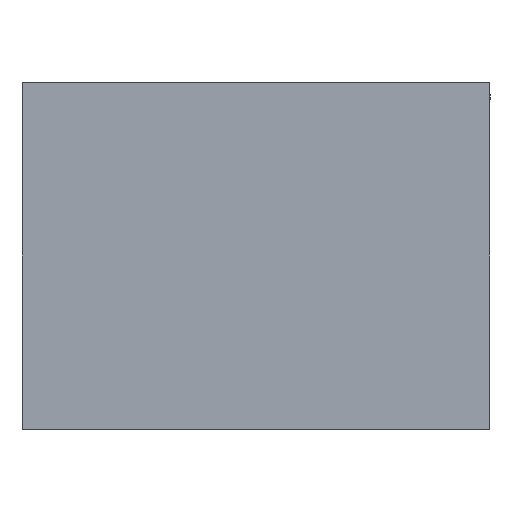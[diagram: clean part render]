
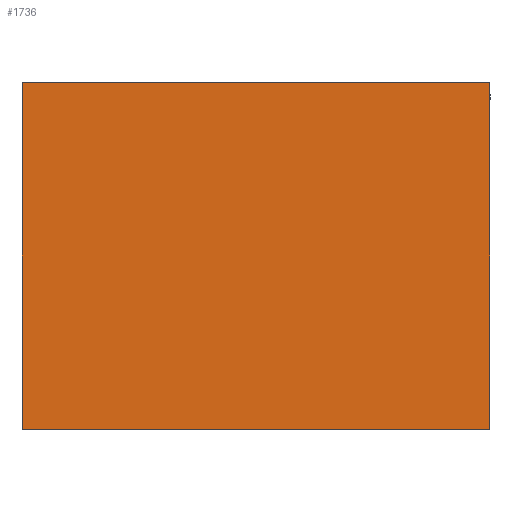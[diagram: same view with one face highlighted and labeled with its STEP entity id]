
A CAD part, front view. The second image highlights one B-rep face of the part: STEP entity #1736.
In plain terms, the highlighted planar face has unit normal (0, -1, 0).
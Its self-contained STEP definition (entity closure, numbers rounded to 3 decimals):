
#10 = VERTEX_POINT ( 'NONE', #1629 ) ;
#130 = EDGE_CURVE ( 'NONE', #1143, #1706, #1220, .T. ) ;
#221 = EDGE_CURVE ( 'NONE', #10, #1143, #484, .T. ) ;
#337 = LINE ( 'NONE', #1583, #1283 ) ;
#445 = DIRECTION ( 'NONE',  ( 0., 1., 0. ) ) ;
#484 = LINE ( 'NONE', #1347, #1501 ) ;
#554 = CARTESIAN_POINT ( 'NONE',  ( -42.5, 0., 31.5 ) ) ;
#639 = EDGE_CURVE ( 'NONE', #862, #10, #337, .T. ) ;
#648 = ORIENTED_EDGE ( 'NONE', *, *, #639, .F. ) ;
#803 = ORIENTED_EDGE ( 'NONE', *, *, #221, .F. ) ;
#846 = CARTESIAN_POINT ( 'NONE',  ( 0., 0., 0. ) ) ;
#862 = VERTEX_POINT ( 'NONE', #554 ) ;
#893 = AXIS2_PLACEMENT_3D ( 'NONE', #846, #445, #1812 ) ;
#965 = LINE ( 'NONE', #1737, #1901 ) ;
#1012 = EDGE_LOOP ( 'NONE', ( #803, #648, #1515, #1423 ) ) ;
#1143 = VERTEX_POINT ( 'NONE', #2304 ) ;
#1220 = LINE ( 'NONE', #1320, #1286 ) ;
#1257 = PLANE ( 'NONE',  #893 ) ;
#1283 = VECTOR ( 'NONE', #2169, 1000. ) ;
#1286 = VECTOR ( 'NONE', #1400, 1000. ) ;
#1320 = CARTESIAN_POINT ( 'NONE',  ( -42.5, 0., -31.5 ) ) ;
#1347 = CARTESIAN_POINT ( 'NONE',  ( 42.5, 0., -31.5 ) ) ;
#1380 = FACE_OUTER_BOUND ( 'NONE', #1012, .T. ) ;
#1400 = DIRECTION ( 'NONE',  ( -1., 0., 0. ) ) ;
#1423 = ORIENTED_EDGE ( 'NONE', *, *, #130, .F. ) ;
#1447 = EDGE_CURVE ( 'NONE', #1706, #862, #965, .T. ) ;
#1501 = VECTOR ( 'NONE', #1863, 1000. ) ;
#1515 = ORIENTED_EDGE ( 'NONE', *, *, #1447, .F. ) ;
#1583 = CARTESIAN_POINT ( 'NONE',  ( -42.5, 0., 31.5 ) ) ;
#1629 = CARTESIAN_POINT ( 'NONE',  ( 42.5, 0., 31.5 ) ) ;
#1634 = CARTESIAN_POINT ( 'NONE',  ( -42.5, 0., -31.5 ) ) ;
#1706 = VERTEX_POINT ( 'NONE', #1634 ) ;
#1736 = ADVANCED_FACE ( 'NONE', ( #1380 ), #1257, .F. ) ;
#1737 = CARTESIAN_POINT ( 'NONE',  ( -42.5, 0., -31.5 ) ) ;
#1812 = DIRECTION ( 'NONE',  ( 0., 0., 1. ) ) ;
#1863 = DIRECTION ( 'NONE',  ( 0., 0., -1. ) ) ;
#1893 = DIRECTION ( 'NONE',  ( 0., 0., 1. ) ) ;
#1901 = VECTOR ( 'NONE', #1893, 1000. ) ;
#2169 = DIRECTION ( 'NONE',  ( 1., 0., 0. ) ) ;
#2304 = CARTESIAN_POINT ( 'NONE',  ( 42.5, 0., -31.5 ) ) ;
